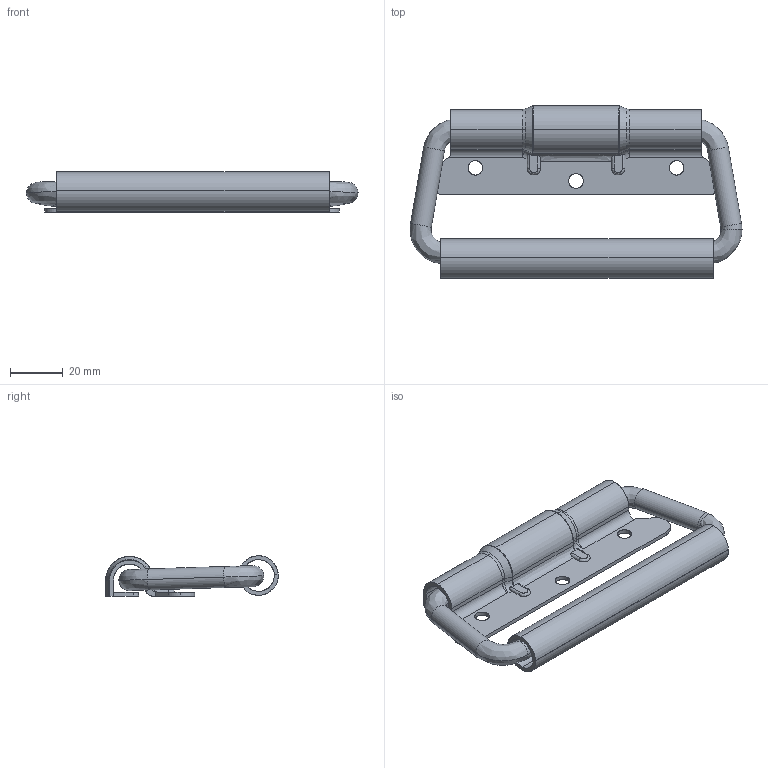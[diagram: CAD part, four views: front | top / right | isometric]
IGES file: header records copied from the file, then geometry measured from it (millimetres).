
Start section: SolidWorks IGES FILE using analytic representation for surfaces
Global section: file name: C:\Documents and Settings\lecoutey\Bureau\PR 316\PR 316.IGS; native system: SolidWorks 2004 by SolidWorks Corporation; preprocessor: Version 5.3; author: lecoutey; date: 050408.145543; units: millimetre
Bounding box: 126 x 65.46 x 15.37 mm (x, y, z)
Surface area: 27954.4 mm2 (no closed solid volume)
Topology: 0 solids, 0 shells, 155 faces, 1543 edges, 1541 vertices
Faces by surface type: bspline 82, revolution 73
